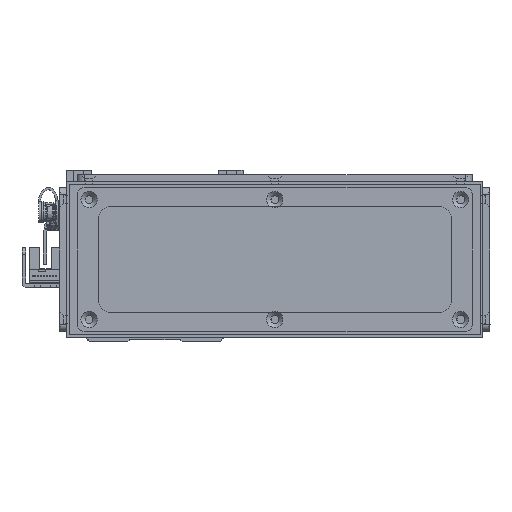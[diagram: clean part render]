
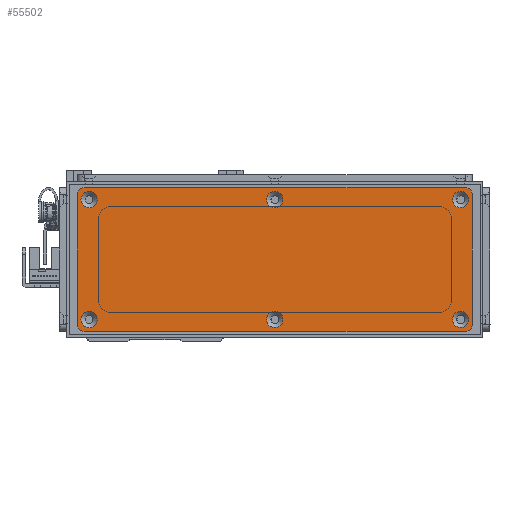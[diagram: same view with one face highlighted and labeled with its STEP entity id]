
A CAD part, left-side view. The second image highlights one B-rep face of the part: STEP entity #55502.
In plain terms, the highlighted planar face has unit normal (-1, 0, 0) as drawn and (0, 0, 1) by its records, which use the part's own axes.
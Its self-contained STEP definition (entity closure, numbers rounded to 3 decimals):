
#2709=FACE_BOUND('',#9306,.T.);
#2710=FACE_BOUND('',#9307,.T.);
#2711=FACE_BOUND('',#9308,.T.);
#2712=FACE_BOUND('',#9309,.T.);
#2713=FACE_BOUND('',#9310,.T.);
#2714=FACE_BOUND('',#9311,.T.);
#3352=PLANE('',#59933);
#6056=FACE_OUTER_BOUND('',#9305,.T.);
#9305=EDGE_LOOP('',(#43887,#43888,#43889,#43890,#43891,#43892,#43893,#43894));
#9306=EDGE_LOOP('',(#43895));
#9307=EDGE_LOOP('',(#43896));
#9308=EDGE_LOOP('',(#43897));
#9309=EDGE_LOOP('',(#43898));
#9310=EDGE_LOOP('',(#43899));
#9311=EDGE_LOOP('',(#43900));
#12874=LINE('',#83487,#19157);
#12877=LINE('',#83495,#19160);
#12880=LINE('',#83503,#19163);
#12883=LINE('',#83510,#19166);
#19157=VECTOR('',#68151,10.);
#19160=VECTOR('',#68160,10.);
#19163=VECTOR('',#68169,10.);
#19166=VECTOR('',#68178,10.);
#24855=CIRCLE('',#59887,3.45);
#24858=CIRCLE('',#59892,3.45);
#24861=CIRCLE('',#59897,3.45);
#24864=CIRCLE('',#59902,3.45);
#24867=CIRCLE('',#59907,3.45);
#24870=CIRCLE('',#59912,3.45);
#24877=CIRCLE('',#59922,3.);
#24878=CIRCLE('',#59925,3.);
#24879=CIRCLE('',#59928,3.);
#24880=CIRCLE('',#59931,3.);
#27020=VERTEX_POINT('',#83403);
#27023=VERTEX_POINT('',#83413);
#27026=VERTEX_POINT('',#83423);
#27029=VERTEX_POINT('',#83433);
#27032=VERTEX_POINT('',#83443);
#27035=VERTEX_POINT('',#83453);
#27046=VERTEX_POINT('',#83480);
#27047=VERTEX_POINT('',#83482);
#27048=VERTEX_POINT('',#83486);
#27049=VERTEX_POINT('',#83490);
#27050=VERTEX_POINT('',#83494);
#27051=VERTEX_POINT('',#83498);
#27052=VERTEX_POINT('',#83502);
#27053=VERTEX_POINT('',#83506);
#33162=EDGE_CURVE('',#27020,#27020,#24855,.T.);
#33167=EDGE_CURVE('',#27023,#27023,#24858,.T.);
#33172=EDGE_CURVE('',#27026,#27026,#24861,.T.);
#33177=EDGE_CURVE('',#27029,#27029,#24864,.T.);
#33182=EDGE_CURVE('',#27032,#27032,#24867,.T.);
#33187=EDGE_CURVE('',#27035,#27035,#24870,.T.);
#33201=EDGE_CURVE('',#27047,#27046,#24877,.T.);
#33203=EDGE_CURVE('',#27048,#27047,#12874,.T.);
#33205=EDGE_CURVE('',#27049,#27048,#24878,.T.);
#33207=EDGE_CURVE('',#27050,#27049,#12877,.T.);
#33209=EDGE_CURVE('',#27051,#27050,#24879,.T.);
#33211=EDGE_CURVE('',#27052,#27051,#12880,.T.);
#33213=EDGE_CURVE('',#27053,#27052,#24880,.T.);
#33215=EDGE_CURVE('',#27046,#27053,#12883,.T.);
#43887=ORIENTED_EDGE('',*,*,#33215,.T.);
#43888=ORIENTED_EDGE('',*,*,#33213,.T.);
#43889=ORIENTED_EDGE('',*,*,#33211,.T.);
#43890=ORIENTED_EDGE('',*,*,#33209,.T.);
#43891=ORIENTED_EDGE('',*,*,#33207,.T.);
#43892=ORIENTED_EDGE('',*,*,#33205,.T.);
#43893=ORIENTED_EDGE('',*,*,#33203,.T.);
#43894=ORIENTED_EDGE('',*,*,#33201,.T.);
#43895=ORIENTED_EDGE('',*,*,#33162,.T.);
#43896=ORIENTED_EDGE('',*,*,#33167,.T.);
#43897=ORIENTED_EDGE('',*,*,#33172,.T.);
#43898=ORIENTED_EDGE('',*,*,#33177,.T.);
#43899=ORIENTED_EDGE('',*,*,#33182,.T.);
#43900=ORIENTED_EDGE('',*,*,#33187,.T.);
#55502=ADVANCED_FACE('',(#6056,#2709,#2710,#2711,#2712,#2713,#2714),#3352,
 .T.);
#59887=AXIS2_PLACEMENT_3D('',#83404,#68059,#68060);
#59892=AXIS2_PLACEMENT_3D('',#83414,#68071,#68072);
#59897=AXIS2_PLACEMENT_3D('',#83424,#68083,#68084);
#59902=AXIS2_PLACEMENT_3D('',#83434,#68095,#68096);
#59907=AXIS2_PLACEMENT_3D('',#83444,#68107,#68108);
#59912=AXIS2_PLACEMENT_3D('',#83454,#68119,#68120);
#59922=AXIS2_PLACEMENT_3D('',#83483,#68146,#68147);
#59925=AXIS2_PLACEMENT_3D('',#83491,#68155,#68156);
#59928=AXIS2_PLACEMENT_3D('',#83499,#68164,#68165);
#59931=AXIS2_PLACEMENT_3D('',#83507,#68173,#68174);
#59933=AXIS2_PLACEMENT_3D('',#83511,#68179,#68180);
#68059=DIRECTION('center_axis',(0.,0.,-1.));
#68060=DIRECTION('ref_axis',(1.,0.,0.));
#68071=DIRECTION('center_axis',(0.,0.,-1.));
#68072=DIRECTION('ref_axis',(1.,0.,0.));
#68083=DIRECTION('center_axis',(0.,0.,-1.));
#68084=DIRECTION('ref_axis',(1.,0.,0.));
#68095=DIRECTION('center_axis',(0.,0.,-1.));
#68096=DIRECTION('ref_axis',(1.,0.,0.));
#68107=DIRECTION('center_axis',(0.,0.,-1.));
#68108=DIRECTION('ref_axis',(1.,0.,0.));
#68119=DIRECTION('center_axis',(0.,0.,-1.));
#68120=DIRECTION('ref_axis',(1.,0.,0.));
#68146=DIRECTION('center_axis',(0.,0.,1.));
#68147=DIRECTION('ref_axis',(-1.,0.,0.));
#68151=DIRECTION('',(0.,1.,0.));
#68155=DIRECTION('center_axis',(0.,0.,1.));
#68156=DIRECTION('ref_axis',(0.,1.,0.));
#68160=DIRECTION('',(1.,0.,0.));
#68164=DIRECTION('center_axis',(0.,0.,1.));
#68165=DIRECTION('ref_axis',(1.,0.,0.));
#68169=DIRECTION('',(0.,-1.,0.));
#68173=DIRECTION('center_axis',(0.,0.,1.));
#68174=DIRECTION('ref_axis',(0.,-1.,0.));
#68178=DIRECTION('',(-1.,0.,0.));
#68179=DIRECTION('center_axis',(0.,0.,1.));
#68180=DIRECTION('ref_axis',(1.,0.,0.));
#83403=CARTESIAN_POINT('',(-3.45,25.5,1.5));
#83404=CARTESIAN_POINT('Origin',(0.,25.5,1.5));
#83413=CARTESIAN_POINT('',(75.55,-25.5,1.5));
#83414=CARTESIAN_POINT('Origin',(79.,-25.5,1.5));
#83423=CARTESIAN_POINT('',(-82.45,25.5,1.5));
#83424=CARTESIAN_POINT('Origin',(-79.,25.5,1.5));
#83433=CARTESIAN_POINT('',(75.55,25.5,1.5));
#83434=CARTESIAN_POINT('Origin',(79.,25.5,1.5));
#83443=CARTESIAN_POINT('',(-82.45,-25.5,1.5));
#83444=CARTESIAN_POINT('Origin',(-79.,-25.5,1.5));
#83453=CARTESIAN_POINT('',(-3.45,-25.5,1.5));
#83454=CARTESIAN_POINT('Origin',(0.,-25.5,1.5));
#83480=CARTESIAN_POINT('',(81.,30.5,1.5));
#83482=CARTESIAN_POINT('',(84.,27.5,1.5));
#83483=CARTESIAN_POINT('Origin',(81.,27.5,1.5));
#83486=CARTESIAN_POINT('',(84.,-27.5,1.5));
#83487=CARTESIAN_POINT('',(84.,27.5,1.5));
#83490=CARTESIAN_POINT('',(81.,-30.5,1.5));
#83491=CARTESIAN_POINT('Origin',(81.,-27.5,1.5));
#83494=CARTESIAN_POINT('',(-81.,-30.5,1.5));
#83495=CARTESIAN_POINT('',(81.,-30.5,1.5));
#83498=CARTESIAN_POINT('',(-84.,-27.5,1.5));
#83499=CARTESIAN_POINT('Origin',(-81.,-27.5,1.5));
#83502=CARTESIAN_POINT('',(-84.,27.5,1.5));
#83503=CARTESIAN_POINT('',(-84.,-27.5,1.5));
#83506=CARTESIAN_POINT('',(-81.,30.5,1.5));
#83507=CARTESIAN_POINT('Origin',(-81.,27.5,1.5));
#83510=CARTESIAN_POINT('',(-81.,30.5,1.5));
#83511=CARTESIAN_POINT('Origin',(0.,0.,
1.5));
